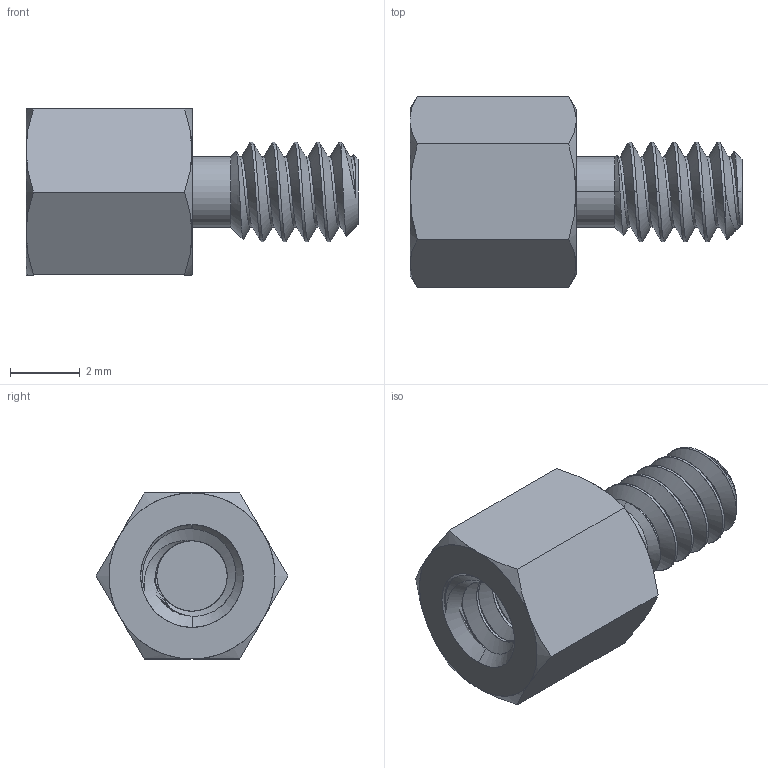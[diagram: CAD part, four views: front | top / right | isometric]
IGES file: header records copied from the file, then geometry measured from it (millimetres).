
Start section: SolidWorks IGES file using analytic representation for surfaces
Global section: file name: C:\Users\Bud\Documents\GitHub\telemetry\Hardware\Masthead hardware\IGES\standoffs- McM93505A460.IGS; native system: SolidWorks 2011; preprocessor: SolidWorks 2011; author: Bud; date: 131225.212003; units: inch
Bounding box: 9.53 x 5.5 x 4.76 mm (x, y, z)
Surface area: 218.4 mm2 (no closed solid volume)
Topology: 0 solids, 0 shells, 59 faces, 1184 edges, 1182 vertices
Faces by surface type: revolution 43, bspline 16
